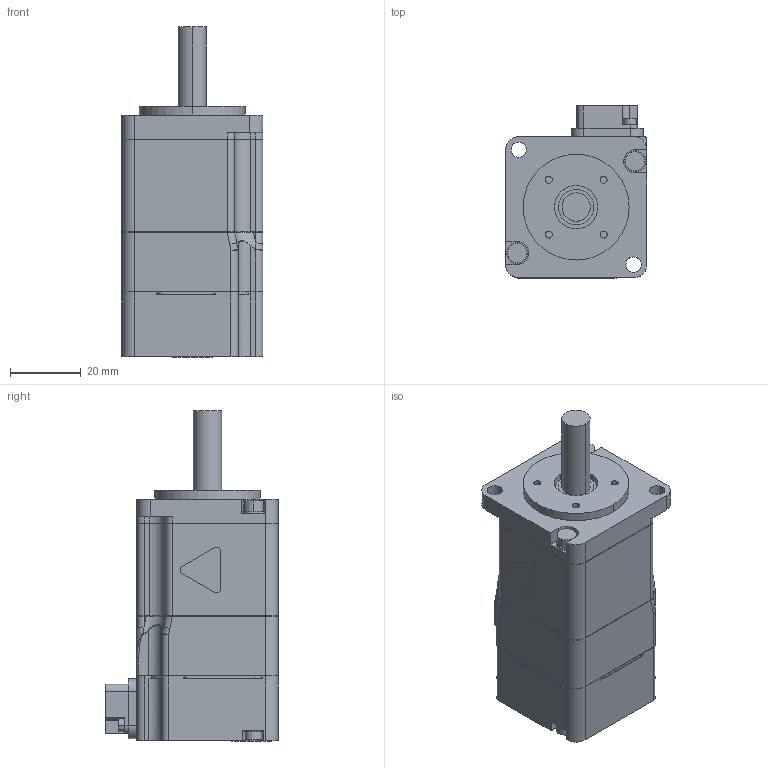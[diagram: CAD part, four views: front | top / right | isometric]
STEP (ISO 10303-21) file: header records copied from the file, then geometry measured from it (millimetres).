
FILE_DESCRIPTION((''),'2;1');
FILE_NAME('SGM7A-01A','2013-11-20T',('shibuya'),('YASKAWA ELECTRIC CORCORATION'),'PRO/ENGINEER BY PARAMETRIC TECHNOLOGY CORPORATION, 2011490','PRO/ENGINEER BY PARAMETRIC TECHNOLOGY CORPORATION, 2011490','');
FILE_SCHEMA(('AUTOMOTIVE_DESIGN { 1 0 10303 214 1 1 1 1 }'));
Length unit declared in the file: millimetre
Products named in the file (1): SGM7A-01A
Bounding box: 40.1 x 48.8 x 93.6 mm (x, y, z)
Volume: 105510.8 mm3; surface area: 16534.8 mm2
Topology: 1 solids, 1 shells, 373 faces, 978 edges, 641 vertices
Faces by surface type: plane 199, cylinder 157, bspline 17
Entity records: 16853 total; most frequent: CARTESIAN_POINT 2829, ORIENTED_EDGE 1956, DIRECTION 1955, EDGE_CURVE 978, FILL_AREA_STYLE_COLOUR 745, FILL_AREA_STYLE 745, SURFACE_STYLE_FILL_AREA 745, SURFACE_SIDE_STYLE 745
